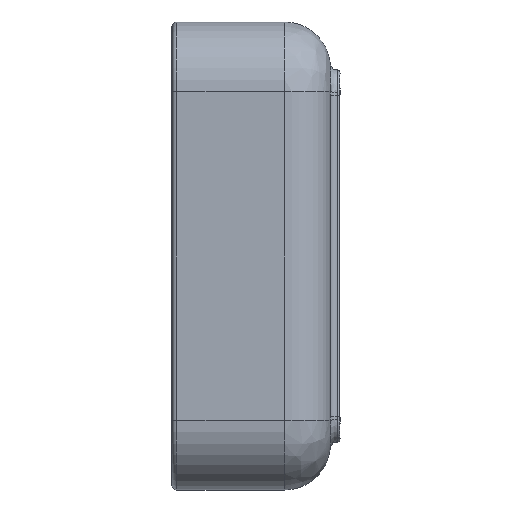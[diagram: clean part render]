
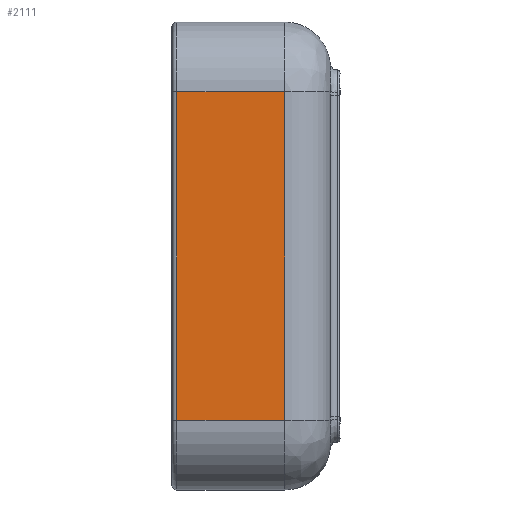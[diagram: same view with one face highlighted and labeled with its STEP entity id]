
A CAD part, left-side view. The second image highlights one B-rep face of the part: STEP entity #2111.
In plain terms, the highlighted planar face has unit normal (-1, 0, 0).
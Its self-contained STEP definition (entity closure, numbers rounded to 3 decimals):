
#345=FACE_OUTER_BOUND('',#489,.T.);
#489=EDGE_LOOP('',(#1899,#1900,#1901,#1902));
#712=LINE('',#9835,#822);
#719=LINE('',#10454,#829);
#721=LINE('',#10461,#831);
#722=LINE('',#10464,#832);
#822=VECTOR('',#2747,274.);
#829=VECTOR('',#2816,89.8);
#831=VECTOR('',#2826,274.);
#832=VECTOR('',#2831,89.8);
#993=VERTEX_POINT('',#9832);
#994=VERTEX_POINT('',#9834);
#1014=VERTEX_POINT('',#10452);
#1015=VERTEX_POINT('',#10460);
#1269=EDGE_CURVE('',#993,#994,#712,.T.);
#1309=EDGE_CURVE('',#1014,#993,#719,.T.);
#1313=EDGE_CURVE('',#1014,#1015,#721,.T.);
#1315=EDGE_CURVE('',#1015,#994,#722,.T.);
#1899=ORIENTED_EDGE('',*,*,#1313,.T.);
#1900=ORIENTED_EDGE('',*,*,#1315,.T.);
#1901=ORIENTED_EDGE('',*,*,#1269,.F.);
#1902=ORIENTED_EDGE('',*,*,#1309,.F.);
#1984=PLANE('',#2328);
#2111=ADVANCED_FACE('',(#345),#1984,.T.);
#2328=AXIS2_PLACEMENT_3D('',#10463,#2829,#2830);
#2747=DIRECTION('',(0.,0.,-1.));
#2816=DIRECTION('',(0.,-1.,0.));
#2826=DIRECTION('',(0.,0.,-1.));
#2829=DIRECTION('center_axis',(-1.,0.,0.));
#2830=DIRECTION('ref_axis',(0.,0.,1.));
#2831=DIRECTION('',(0.,-1.,0.));
#9832=CARTESIAN_POINT('',(-250.,-93.8,137.));
#9834=CARTESIAN_POINT('',(-250.,-93.8,-137.));
#9835=CARTESIAN_POINT('',(-250.,-93.8,137.));
#10452=CARTESIAN_POINT('',(-250.,-4.,137.));
#10454=CARTESIAN_POINT('',(-250.,-4.,137.));
#10460=CARTESIAN_POINT('',(-250.,-4.,-137.));
#10461=CARTESIAN_POINT('',(-250.,-4.,137.));
#10463=CARTESIAN_POINT('Origin',(-250.,0.,-195.));
#10464=CARTESIAN_POINT('',(-250.,-4.,-137.));
